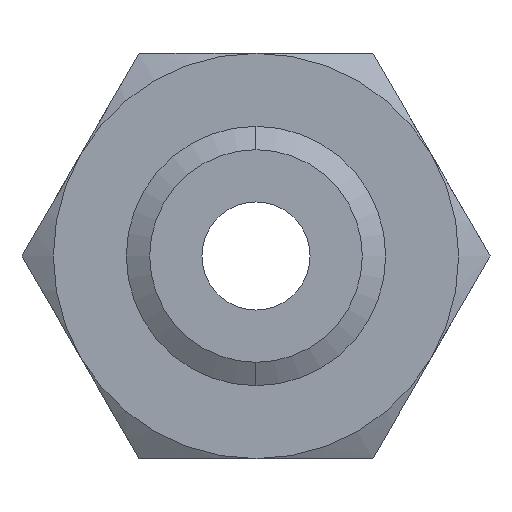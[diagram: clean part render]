
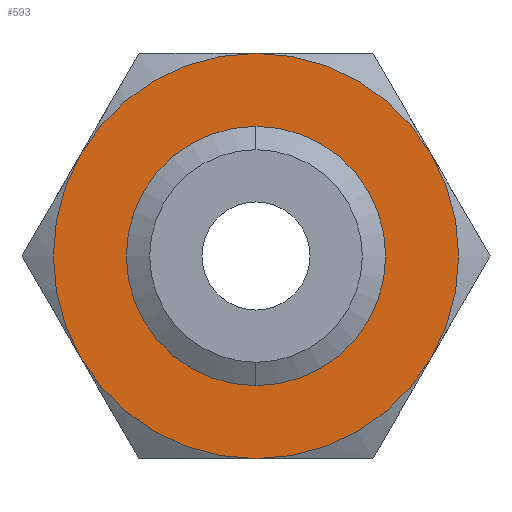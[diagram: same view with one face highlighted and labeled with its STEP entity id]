
A CAD part, front view. The second image highlights one B-rep face of the part: STEP entity #593.
In plain terms, the highlighted planar face has unit normal (0, -1, 0).
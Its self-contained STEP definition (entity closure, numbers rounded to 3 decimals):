
#415 = VERTEX_POINT ( 'NONE', #1386 ) ;
#416 = VERTEX_POINT ( 'NONE', #1385 ) ;
#457 = EDGE_CURVE ( 'NONE', #416, #415, #1463, .T. ) ;
#522 = ORIENTED_EDGE ( 'NONE', *, *, #523, .F. ) ;
#523 = EDGE_CURVE ( 'NONE', #586, #598, #1633, .T. ) ;
#524 = EDGE_LOOP ( 'NONE', ( #525, #526 ) ) ;
#525 = ORIENTED_EDGE ( 'NONE', *, *, #457, .F. ) ;
#526 = ORIENTED_EDGE ( 'NONE', *, *, #582, .F. ) ;
#582 = EDGE_CURVE ( 'NONE', #415, #416, #1714, .T. ) ;
#586 = VERTEX_POINT ( 'NONE', #1709 ) ;
#587 = ORIENTED_EDGE ( 'NONE', *, *, #588, .F. ) ;
#588 = EDGE_CURVE ( 'NONE', #589, #586, #1708, .T. ) ;
#589 = VERTEX_POINT ( 'NONE', #1703 ) ;
#590 = ORIENTED_EDGE ( 'NONE', *, *, #591, .F. ) ;
#591 = EDGE_CURVE ( 'NONE', #600, #589, #1701, .T. ) ;
#592 = EDGE_CURVE ( 'NONE', #599, #600, #1758, .T. ) ;
#593 = ADVANCED_FACE ( 'NONE', ( #1754, #1753 ), #1752, .F. ) ;
#594 = ORIENTED_EDGE ( 'NONE', *, *, #592, .F. ) ;
#595 = ORIENTED_EDGE ( 'NONE', *, *, #596, .F. ) ;
#596 = EDGE_CURVE ( 'NONE', #597, #599, #1750, .T. ) ;
#597 = VERTEX_POINT ( 'NONE', #1742 ) ;
#598 = VERTEX_POINT ( 'NONE', #1741 ) ;
#599 = VERTEX_POINT ( 'NONE', #1740 ) ;
#600 = VERTEX_POINT ( 'NONE', #1739 ) ;
#601 = EDGE_LOOP ( 'NONE', ( #594, #595, #603, #522, #587, #590 ) ) ;
#603 = ORIENTED_EDGE ( 'NONE', *, *, #604, .F. ) ;
#604 = EDGE_CURVE ( 'NONE', #598, #597, #1734, .T. ) ;
#1385 = CARTESIAN_POINT ( 'NONE',  ( 0., 0., -19.67 ) ) ;
#1386 = CARTESIAN_POINT ( 'NONE',  ( 0., 0., 19.67 ) ) ;
#1454 = DIRECTION ( 'NONE',  ( 0., 0., -1. ) ) ;
#1455 = DIRECTION ( 'NONE',  ( 0., -1., 0. ) ) ;
#1456 = CARTESIAN_POINT ( 'NONE',  ( 0., 0., 0. ) ) ;
#1457 = AXIS2_PLACEMENT_3D ( 'NONE', #1456, #1455, #1454 ) ;
#1463 = CIRCLE ( 'NONE', #1457, 19.67 ) ;
#1629 = DIRECTION ( 'NONE',  ( 0., 0., 1. ) ) ;
#1630 = DIRECTION ( 'NONE',  ( 0., 1., 0. ) ) ;
#1631 = CARTESIAN_POINT ( 'NONE',  ( 0., 0., 0. ) ) ;
#1632 = AXIS2_PLACEMENT_3D ( 'NONE', #1631, #1630, #1629 ) ;
#1633 = CIRCLE ( 'NONE', #1632, 37.5 ) ;
#1698 = DIRECTION ( 'NONE',  ( 0., 1., 0. ) ) ;
#1699 = CARTESIAN_POINT ( 'NONE',  ( 0., 0., 0. ) ) ;
#1700 = AXIS2_PLACEMENT_3D ( 'NONE', #1699, #1698, #1759 ) ;
#1701 = CIRCLE ( 'NONE', #1700, 37.5 ) ;
#1702 = CARTESIAN_POINT ( 'NONE',  ( 0., 0., 0. ) ) ;
#1703 = CARTESIAN_POINT ( 'NONE',  ( 32.476, 0., -18.75 ) ) ;
#1704 = DIRECTION ( 'NONE',  ( 0., 0., 1. ) ) ;
#1705 = DIRECTION ( 'NONE',  ( 0., 1., 0. ) ) ;
#1706 = CARTESIAN_POINT ( 'NONE',  ( 0., 0., 0. ) ) ;
#1707 = AXIS2_PLACEMENT_3D ( 'NONE', #1706, #1705, #1704 ) ;
#1708 = CIRCLE ( 'NONE', #1707, 37.5 ) ;
#1709 = CARTESIAN_POINT ( 'NONE',  ( 0., 0., -37.5 ) ) ;
#1710 = DIRECTION ( 'NONE',  ( 0., 0., -1. ) ) ;
#1711 = DIRECTION ( 'NONE',  ( 0., -1., 0. ) ) ;
#1712 = CARTESIAN_POINT ( 'NONE',  ( 0., 0., 0. ) ) ;
#1713 = AXIS2_PLACEMENT_3D ( 'NONE', #1712, #1711, #1710 ) ;
#1714 = CIRCLE ( 'NONE', #1713, 19.67 ) ;
#1730 = DIRECTION ( 'NONE',  ( 0., 0., 1. ) ) ;
#1731 = DIRECTION ( 'NONE',  ( 0., 1., 0. ) ) ;
#1732 = CARTESIAN_POINT ( 'NONE',  ( 0., 0., 0. ) ) ;
#1733 = AXIS2_PLACEMENT_3D ( 'NONE', #1732, #1731, #1730 ) ;
#1734 = CIRCLE ( 'NONE', #1733, 37.5 ) ;
#1739 = CARTESIAN_POINT ( 'NONE',  ( 32.476, 0., 18.75 ) ) ;
#1740 = CARTESIAN_POINT ( 'NONE',  ( 0., 0., 37.5 ) ) ;
#1741 = CARTESIAN_POINT ( 'NONE',  ( -32.476, 0., -18.75 ) ) ;
#1742 = CARTESIAN_POINT ( 'NONE',  ( -32.476, 0., 18.75 ) ) ;
#1743 = DIRECTION ( 'NONE',  ( 0., 0., 1. ) ) ;
#1744 = DIRECTION ( 'NONE',  ( 0., 1., 0. ) ) ;
#1745 = CARTESIAN_POINT ( 'NONE',  ( 0., 0., 0. ) ) ;
#1746 = AXIS2_PLACEMENT_3D ( 'NONE', #1745, #1744, #1743 ) ;
#1747 = DIRECTION ( 'NONE',  ( 0., 0., 1. ) ) ;
#1748 = DIRECTION ( 'NONE',  ( 0., 1., 0. ) ) ;
#1749 = CARTESIAN_POINT ( 'NONE',  ( 21.651, 0., -37.5 ) ) ;
#1750 = CIRCLE ( 'NONE', #1746, 37.5 ) ;
#1751 = AXIS2_PLACEMENT_3D ( 'NONE', #1749, #1748, #1747 ) ;
#1752 = PLANE ( 'NONE',  #1751 ) ;
#1753 = FACE_BOUND ( 'NONE', #524, .T. ) ;
#1754 = FACE_OUTER_BOUND ( 'NONE', #601, .T. ) ;
#1755 = DIRECTION ( 'NONE',  ( 0., 0., 1. ) ) ;
#1756 = DIRECTION ( 'NONE',  ( 0., 1., 0. ) ) ;
#1757 = AXIS2_PLACEMENT_3D ( 'NONE', #1702, #1756, #1755 ) ;
#1758 = CIRCLE ( 'NONE', #1757, 37.5 ) ;
#1759 = DIRECTION ( 'NONE',  ( 0., 0., 1. ) ) ;
